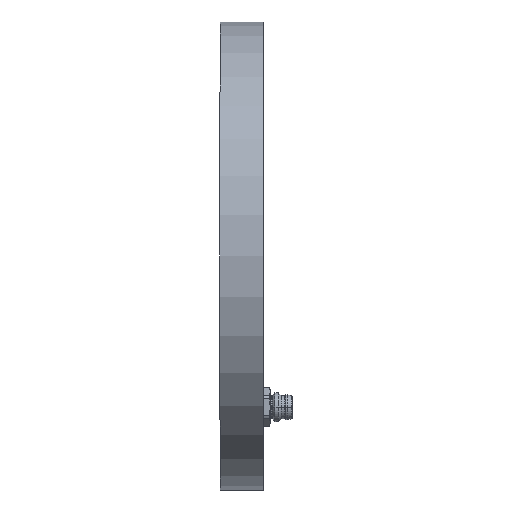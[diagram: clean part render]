
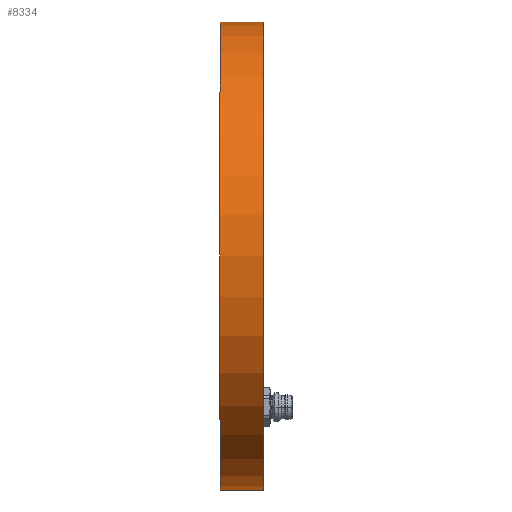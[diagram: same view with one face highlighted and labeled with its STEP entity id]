
A CAD part, left-side view. The second image highlights one B-rep face of the part: STEP entity #8334.
In plain terms, the highlighted cylindrical face has radius 65 mm (diameter 130 mm), a partial arc.
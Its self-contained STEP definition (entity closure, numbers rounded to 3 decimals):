
#370 = DIRECTION ( 'NONE',  ( 0., 1., 0. ) ) ;
#404 = CARTESIAN_POINT ( 'NONE',  ( 0., 0., 0. ) ) ;
#1018 = CIRCLE ( 'NONE', #2977, 65. ) ;
#1173 = CARTESIAN_POINT ( 'NONE',  ( 0., 12., 65. ) ) ;
#1819 = EDGE_CURVE ( 'NONE', #6063, #6246, #1018, .T. ) ;
#2360 = DIRECTION ( 'NONE',  ( 0., -1., 0. ) ) ;
#2625 = DIRECTION ( 'NONE',  ( 0., -1., 0. ) ) ;
#2773 = CARTESIAN_POINT ( 'NONE',  ( 0., 12., -65. ) ) ;
#2977 = AXIS2_PLACEMENT_3D ( 'NONE', #404, #370, #5678 ) ;
#3143 = ORIENTED_EDGE ( 'NONE', *, *, #1819, .T. ) ;
#3657 = AXIS2_PLACEMENT_3D ( 'NONE', #6816, #6785, #5273 ) ;
#4180 = CARTESIAN_POINT ( 'NONE',  ( 0., 12., 65. ) ) ;
#4663 = CARTESIAN_POINT ( 'NONE',  ( 0., 12., 0. ) ) ;
#5269 = EDGE_CURVE ( 'NONE', #7110, #6246, #8021, .T. ) ;
#5273 = DIRECTION ( 'NONE',  ( 0., 0., 1. ) ) ;
#5329 = EDGE_LOOP ( 'NONE', ( #6559, #6537, #7337, #3143 ) ) ;
#5504 = VECTOR ( 'NONE', #8195, 1000. ) ;
#5678 = DIRECTION ( 'NONE',  ( 0., 0., 1. ) ) ;
#6007 = VECTOR ( 'NONE', #2625, 1000. ) ;
#6063 = VERTEX_POINT ( 'NONE', #6225 ) ;
#6225 = CARTESIAN_POINT ( 'NONE',  ( 0., 0., -65. ) ) ;
#6246 = VERTEX_POINT ( 'NONE', #8137 ) ;
#6537 = ORIENTED_EDGE ( 'NONE', *, *, #9073, .F. ) ;
#6559 = ORIENTED_EDGE ( 'NONE', *, *, #5269, .F. ) ;
#6785 = DIRECTION ( 'NONE',  ( 0., 1., 0. ) ) ;
#6816 = CARTESIAN_POINT ( 'NONE',  ( 0., 12., 0. ) ) ;
#6829 = EDGE_CURVE ( 'NONE', #8417, #6063, #8594, .T. ) ;
#7110 = VERTEX_POINT ( 'NONE', #4180 ) ;
#7337 = ORIENTED_EDGE ( 'NONE', *, *, #6829, .T. ) ;
#7714 = DIRECTION ( 'NONE',  ( 0., 0., -1. ) ) ;
#7744 = CARTESIAN_POINT ( 'NONE',  ( 0., 12., -65. ) ) ;
#8021 = LINE ( 'NONE', #1173, #6007 ) ;
#8137 = CARTESIAN_POINT ( 'NONE',  ( 0., 0., 65. ) ) ;
#8195 = DIRECTION ( 'NONE',  ( 0., -1., 0. ) ) ;
#8334 = ADVANCED_FACE ( 'NONE', ( #9838 ), #8889, .T. ) ;
#8417 = VERTEX_POINT ( 'NONE', #7744 ) ;
#8594 = LINE ( 'NONE', #2773, #5504 ) ;
#8889 = CYLINDRICAL_SURFACE ( 'NONE', #9329, 65. ) ;
#9073 = EDGE_CURVE ( 'NONE', #8417, #7110, #9807, .T. ) ;
#9329 = AXIS2_PLACEMENT_3D ( 'NONE', #4663, #2360, #7714 ) ;
#9807 = CIRCLE ( 'NONE', #3657, 65. ) ;
#9838 = FACE_OUTER_BOUND ( 'NONE', #5329, .T. ) ;
